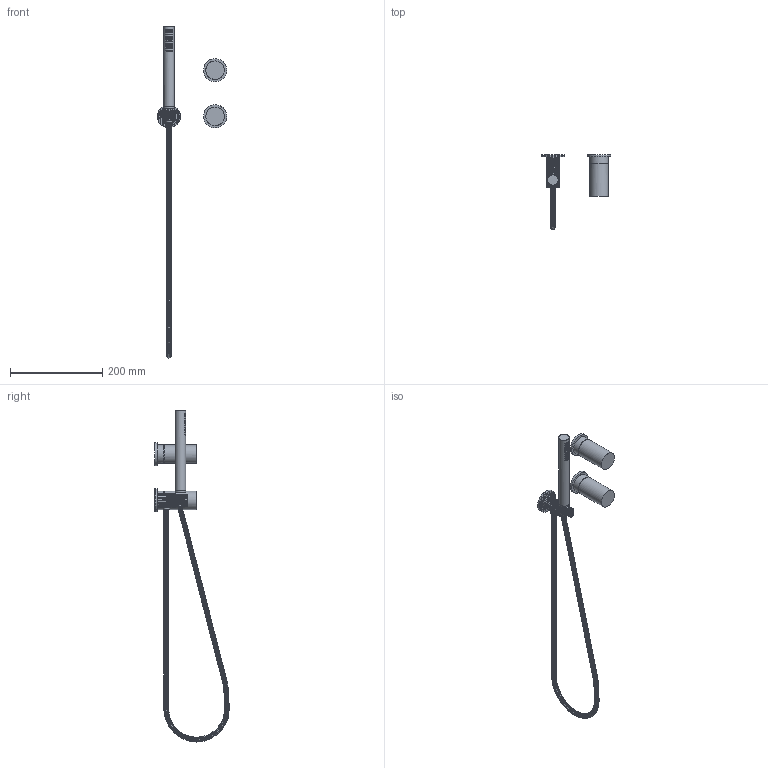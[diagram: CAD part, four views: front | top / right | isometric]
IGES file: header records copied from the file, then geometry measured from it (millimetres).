
Start section: Data from Parasolid IGES Translator 22.0.50, Copyright(c) 2006 Siemens P LM Software. All Rights Reserved.
Global section: file name: noorth-taps-H 24,5 D 8 W 15_5843-2571.igs; native system: By Siemens PLM Incorporated; preprocessor: XPlus GENERIC/IGES 22.0.50; author: Noname; organization: Noname; date: 20260201.161253; units: metre
Bounding box: 150.12 x 161.33 x 718.73 mm (x, y, z)
Volume: 307920.5 mm3; surface area: 107891.8 mm2
Topology: 8 solids, 8 shells, 5502 faces, 16466 edges, 16458 vertices
Faces by surface type: extrusion 5478, plane 16, cylinder 8
Full cylindrical faces by diameter (mm): 22.872 x2, 40 x4, 50 x2
